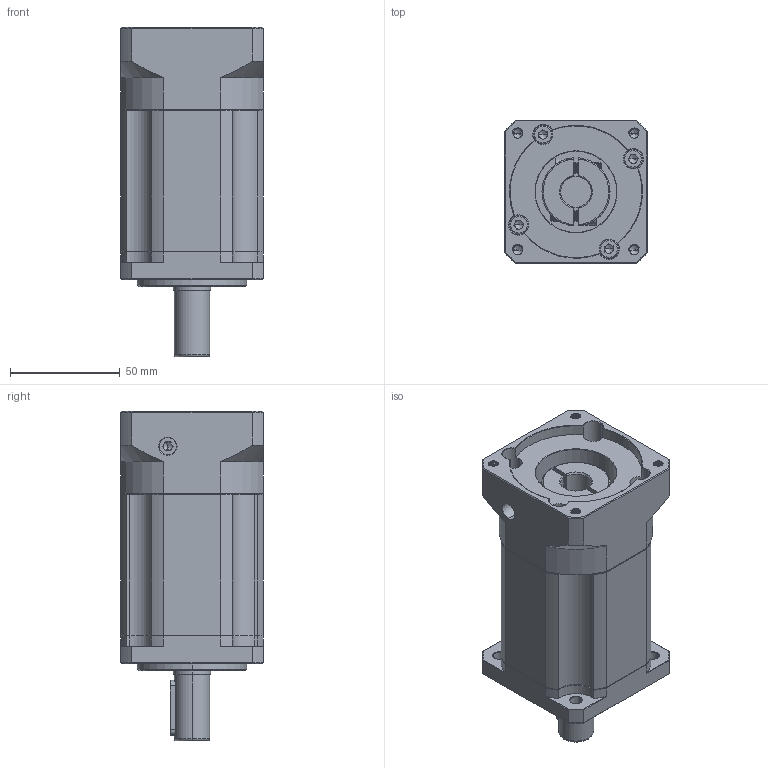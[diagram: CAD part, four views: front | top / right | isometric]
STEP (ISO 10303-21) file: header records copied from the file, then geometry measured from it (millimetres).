
FILE_DESCRIPTION (( 'STEP AP214' ), '1' );
FILE_NAME ('ZB60-D16-L3-14-60-75-M5.STEP', '2022-04-17T07:38:26', ( '' ), ( 'Microsoft' ), 'SwSTEP 2.0', 'SolidWorks 2016', '' );
FILE_SCHEMA (( 'AUTOMOTIVE_DESIGN' ));
Length unit declared in the file: millimetre
Products named in the file (1): ZB60-D16-L3-14-60-75-M5
Bounding box: 65 x 65 x 150 mm (x, y, z)
Volume: 387000.2 mm3; surface area: 62597.8 mm2
Topology: 6 solids, 6 shells, 1894 faces, 5036 edges, 3221 vertices
Faces by surface type: plane 879, cylinder 396, bspline 299, cone 286, torus 34
Entity records: 102153 total; most frequent: CARTESIAN_POINT 36658, ORIENTED_EDGE 10012, DIRECTION 8203, EDGE_CURVE 5006, VERTEX_POINT 3221, VECTOR 3039, LINE 3039, AXIS2_PLACEMENT_3D 2582
